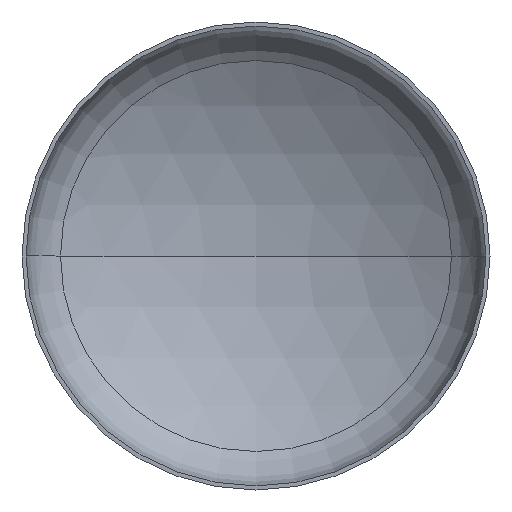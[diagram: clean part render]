
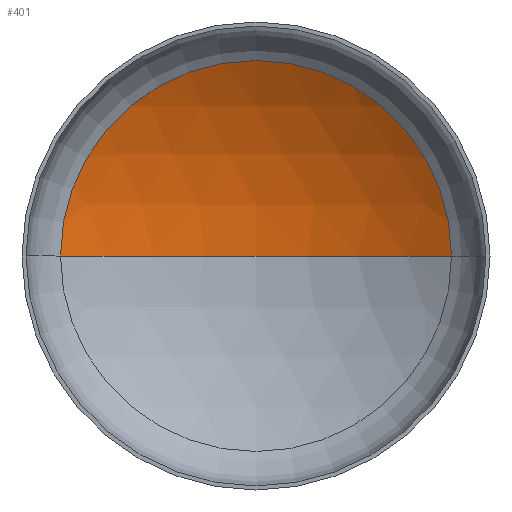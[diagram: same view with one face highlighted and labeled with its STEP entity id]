
A CAD part, front view. The second image highlights one B-rep face of the part: STEP entity #401.
In plain terms, the highlighted spherical face has radius 3200 mm.
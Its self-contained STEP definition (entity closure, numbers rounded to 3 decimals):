
#12 = DIRECTION ( 'NONE',  ( 1., 0., 0. ) ) ;
#14 = DIRECTION ( 'NONE',  ( 0., 0., 1. ) ) ;
#20 = EDGE_LOOP ( 'NONE', ( #135, #124, #58 ) ) ;
#39 = AXIS2_PLACEMENT_3D ( 'NONE', #225, #14, #12 ) ;
#44 = AXIS2_PLACEMENT_3D ( 'NONE', #206, #210, #181 ) ;
#48 = AXIS2_PLACEMENT_3D ( 'NONE', #290, #219, #216 ) ;
#58 = ORIENTED_EDGE ( 'NONE', *, *, #90, .T. ) ;
#90 = EDGE_CURVE ( 'NONE', #127, #150, #149, .T. ) ;
#92 = EDGE_CURVE ( 'NONE', #133, #127, #356, .T. ) ;
#93 = CARTESIAN_POINT ( 'NONE',  ( 1671.18, 634.47, 0. ) ) ;
#95 = EDGE_CURVE ( 'NONE', #133, #150, #295, .T. ) ;
#101 = CARTESIAN_POINT ( 'NONE',  ( 0., 1105.522, 0. ) ) ;
#124 = ORIENTED_EDGE ( 'NONE', *, *, #92, .T. ) ;
#127 = VERTEX_POINT ( 'NONE', #93 ) ;
#133 = VERTEX_POINT ( 'NONE', #101 ) ;
#135 = ORIENTED_EDGE ( 'NONE', *, *, #95, .F. ) ;
#149 = CIRCLE ( 'NONE', #48, 1671.18 ) ;
#150 = VERTEX_POINT ( 'NONE', #214 ) ;
#156 = SPHERICAL_SURFACE ( 'NONE', #286, 3200. ) ;
#181 = DIRECTION ( 'NONE',  ( -1., 0., 0. ) ) ;
#206 = CARTESIAN_POINT ( 'NONE',  ( 0., -2094.478, 0. ) ) ;
#210 = DIRECTION ( 'NONE',  ( 0., 0., -1. ) ) ;
#214 = CARTESIAN_POINT ( 'NONE',  ( -1671.18, 634.47, 0. ) ) ;
#216 = DIRECTION ( 'NONE',  ( 1., 0., 0. ) ) ;
#219 = DIRECTION ( 'NONE',  ( 0., -1., 0. ) ) ;
#225 = CARTESIAN_POINT ( 'NONE',  ( 0., -2094.478, 0. ) ) ;
#262 = CARTESIAN_POINT ( 'NONE',  ( 0., -2094.478, 0. ) ) ;
#280 = DIRECTION ( 'NONE',  ( -1., 0., 0. ) ) ;
#286 = AXIS2_PLACEMENT_3D ( 'NONE', #262, #407, #280 ) ;
#290 = CARTESIAN_POINT ( 'NONE',  ( 0., 634.47, 0. ) ) ;
#295 = CIRCLE ( 'NONE', #39, 3200. ) ;
#301 = FACE_OUTER_BOUND ( 'NONE', #20, .T. ) ;
#356 = CIRCLE ( 'NONE', #44, 3200. ) ;
#401 = ADVANCED_FACE ( 'NONE', ( #301 ), #156, .F. ) ;
#407 = DIRECTION ( 'NONE',  ( 0., 0., -1. ) ) ;
